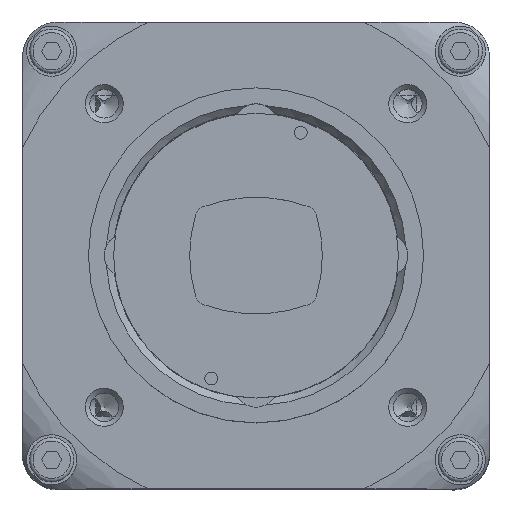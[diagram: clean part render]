
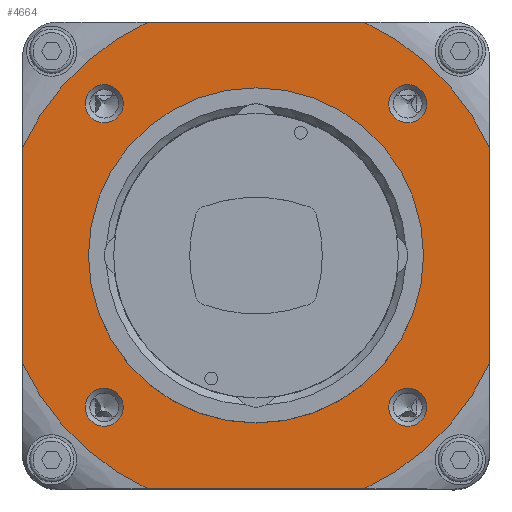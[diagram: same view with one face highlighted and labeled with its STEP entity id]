
A CAD part, top view. The second image highlights one B-rep face of the part: STEP entity #4664.
In plain terms, the highlighted planar face has unit normal (0, 0, 1).
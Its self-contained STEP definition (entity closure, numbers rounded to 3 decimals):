
#4664 = ADVANCED_FACE( '', ( #9794, #9795, #9796, #9797, #9798, #9799 ), #9800, .F. );
#9794 = FACE_BOUND( '', #16990, .T. );
#9795 = FACE_BOUND( '', #16991, .T. );
#9796 = FACE_BOUND( '', #16992, .T. );
#9797 = FACE_BOUND( '', #16993, .T. );
#9798 = FACE_BOUND( '', #16994, .T. );
#9799 = FACE_OUTER_BOUND( '', #16995, .T. );
#9800 = PLANE( '', #16996 );
#16990 = EDGE_LOOP( '', ( #28548 ) );
#16991 = EDGE_LOOP( '', ( #28549 ) );
#16992 = EDGE_LOOP( '', ( #28550 ) );
#16993 = EDGE_LOOP( '', ( #28551 ) );
#16994 = EDGE_LOOP( '', ( #28552 ) );
#16995 = EDGE_LOOP( '', ( #28553, #28554, #28555, #28556, #28557, #28558, #28559, #28560 ) );
#16996 = AXIS2_PLACEMENT_3D( '', #28561, #28562, #28563 );
#28548 = ORIENTED_EDGE( '', *, *, #31928, .T. );
#28549 = ORIENTED_EDGE( '', *, *, #32304, .T. );
#28550 = ORIENTED_EDGE( '', *, *, #29202, .T. );
#28551 = ORIENTED_EDGE( '', *, *, #29423, .T. );
#28552 = ORIENTED_EDGE( '', *, *, #29626, .T. );
#28553 = ORIENTED_EDGE( '', *, *, #32658, .F. );
#28554 = ORIENTED_EDGE( '', *, *, #31607, .T. );
#28555 = ORIENTED_EDGE( '', *, *, #32858, .F. );
#28556 = ORIENTED_EDGE( '', *, *, #32540, .T. );
#28557 = ORIENTED_EDGE( '', *, *, #31280, .F. );
#28558 = ORIENTED_EDGE( '', *, *, #31404, .T. );
#28559 = ORIENTED_EDGE( '', *, *, #30274, .F. );
#28560 = ORIENTED_EDGE( '', *, *, #32802, .T. );
#28561 = CARTESIAN_POINT( '', ( 0., 0., 12.3 ) );
#28562 = DIRECTION( '', ( 0., 0., -1. ) );
#28563 = DIRECTION( '', ( -1., 0., 0. ) );
#29202 = EDGE_CURVE( '', #33976, #33976, #33977, .T. );
#29423 = EDGE_CURVE( '', #34352, #34352, #34353, .T. );
#29626 = EDGE_CURVE( '', #34704, #34704, #34705, .T. );
#30274 = EDGE_CURVE( '', #35754, #35755, #35756, .T. );
#31280 = EDGE_CURVE( '', #37265, #37266, #37267, .T. );
#31404 = EDGE_CURVE( '', #37265, #35755, #37437, .T. );
#31607 = EDGE_CURVE( '', #37714, #37715, #37716, .T. );
#31928 = EDGE_CURVE( '', #38141, #38141, #38142, .T. );
#32304 = EDGE_CURVE( '', #38610, #38610, #38611, .T. );
#32540 = EDGE_CURVE( '', #38921, #37266, #38922, .T. );
#32658 = EDGE_CURVE( '', #37714, #39054, #39055, .T. );
#32802 = EDGE_CURVE( '', #35754, #39054, #39207, .T. );
#32858 = EDGE_CURVE( '', #38921, #37715, #39266, .T. );
#33976 = VERTEX_POINT( '', #41014 );
#33977 = CIRCLE( '', #41015, 1.63 );
#34352 = VERTEX_POINT( '', #41529 );
#34353 = CIRCLE( '', #41530, 1.63 );
#34704 = VERTEX_POINT( '', #42425 );
#34705 = CIRCLE( '', #42426, 14.35 );
#35754 = VERTEX_POINT( '', #44229 );
#35755 = VERTEX_POINT( '', #44230 );
#35756 = LINE( '', #44231, #44232 );
#37265 = VERTEX_POINT( '', #46672 );
#37266 = VERTEX_POINT( '', #46673 );
#37267 = LINE( '', #46674, #46675 );
#37437 = CIRCLE( '', #47013, 22.031 );
#37714 = VERTEX_POINT( '', #47393 );
#37715 = VERTEX_POINT( '', #47394 );
#37716 = CIRCLE( '', #47395, 22.031 );
#38141 = VERTEX_POINT( '', #48124 );
#38142 = CIRCLE( '', #48125, 1.63 );
#38610 = VERTEX_POINT( '', #48983 );
#38611 = CIRCLE( '', #48984, 1.63 );
#38921 = VERTEX_POINT( '', #49427 );
#38922 = CIRCLE( '', #49428, 22.031 );
#39054 = VERTEX_POINT( '', #49599 );
#39055 = LINE( '', #49600, #49601 );
#39207 = CIRCLE( '', #49941, 22.031 );
#39266 = LINE( '', #50010, #50011 );
#41014 = CARTESIAN_POINT( '', ( -14.63, 13., 12.3 ) );
#41015 = AXIS2_PLACEMENT_3D( '', #50914, #50915, #50916 );
#41529 = CARTESIAN_POINT( '', ( 11.371, 13., 12.3 ) );
#41530 = AXIS2_PLACEMENT_3D( '', #51236, #51237, #51238 );
#42425 = CARTESIAN_POINT( '', ( 14.35, 0., 12.3 ) );
#42426 = AXIS2_PLACEMENT_3D( '', #51474, #51475, #51476 );
#44229 = CARTESIAN_POINT( '', ( 20., 9.238, 12.3 ) );
#44230 = CARTESIAN_POINT( '', ( 20., -9.238, 12.3 ) );
#44231 = CARTESIAN_POINT( '', ( 20., 20., 12.3 ) );
#44232 = VECTOR( '', #52308, 1000. );
#46672 = CARTESIAN_POINT( '', ( 9.238, -20., 12.3 ) );
#46673 = CARTESIAN_POINT( '', ( -9.238, -20., 12.3 ) );
#46674 = CARTESIAN_POINT( '', ( 20., -20., 12.3 ) );
#46675 = VECTOR( '', #53573, 1000. );
#47013 = AXIS2_PLACEMENT_3D( '', #53702, #53703, #53704 );
#47393 = CARTESIAN_POINT( '', ( -9.238, 20., 12.3 ) );
#47394 = CARTESIAN_POINT( '', ( -20., 9.238, 12.3 ) );
#47395 = AXIS2_PLACEMENT_3D( '', #53968, #53969, #53970 );
#48124 = CARTESIAN_POINT( '', ( 11.371, -13., 12.3 ) );
#48125 = AXIS2_PLACEMENT_3D( '', #54316, #54317, #54318 );
#48983 = CARTESIAN_POINT( '', ( -14.63, -13., 12.3 ) );
#48984 = AXIS2_PLACEMENT_3D( '', #54707, #54708, #54709 );
#49427 = CARTESIAN_POINT( '', ( -20., -9.238, 12.3 ) );
#49428 = AXIS2_PLACEMENT_3D( '', #54969, #54970, #54971 );
#49599 = CARTESIAN_POINT( '', ( 9.238, 20., 12.3 ) );
#49600 = CARTESIAN_POINT( '', ( -20., 20., 12.3 ) );
#49601 = VECTOR( '', #55060, 1000. );
#49941 = AXIS2_PLACEMENT_3D( '', #55124, #55125, #55126 );
#50010 = CARTESIAN_POINT( '', ( -20., -20., 12.3 ) );
#50011 = VECTOR( '', #55153, 1000. );
#50914 = CARTESIAN_POINT( '', ( -13., 13., 12.3 ) );
#50915 = DIRECTION( '', ( 0., 0., -1. ) );
#50916 = DIRECTION( '', ( -1., 0., 0. ) );
#51236 = CARTESIAN_POINT( '', ( 13., 13., 12.3 ) );
#51237 = DIRECTION( '', ( 0., 0., -1. ) );
#51238 = DIRECTION( '', ( -1., 0., 0. ) );
#51474 = CARTESIAN_POINT( '', ( 0., 0., 12.3 ) );
#51475 = DIRECTION( '', ( 0., 0., -1. ) );
#51476 = DIRECTION( '', ( 1., 0., 0. ) );
#52308 = DIRECTION( '', ( 0., -1., 0. ) );
#53573 = DIRECTION( '', ( -1., 0., 0. ) );
#53702 = CARTESIAN_POINT( '', ( 0., 0., 12.3 ) );
#53703 = DIRECTION( '', ( 0., 0., 1. ) );
#53704 = DIRECTION( '', ( 1., 0., 0. ) );
#53968 = CARTESIAN_POINT( '', ( 0., 0., 12.3 ) );
#53969 = DIRECTION( '', ( 0., 0., 1. ) );
#53970 = DIRECTION( '', ( 1., 0., 0. ) );
#54316 = CARTESIAN_POINT( '', ( 13., -13., 12.3 ) );
#54317 = DIRECTION( '', ( 0., 0., -1. ) );
#54318 = DIRECTION( '', ( -1., 0., 0. ) );
#54707 = CARTESIAN_POINT( '', ( -13., -13., 12.3 ) );
#54708 = DIRECTION( '', ( 0., 0., -1. ) );
#54709 = DIRECTION( '', ( -1., 0., 0. ) );
#54969 = CARTESIAN_POINT( '', ( 0., 0., 12.3 ) );
#54970 = DIRECTION( '', ( 0., 0., 1. ) );
#54971 = DIRECTION( '', ( 1., 0., 0. ) );
#55060 = DIRECTION( '', ( 1., 0., 0. ) );
#55124 = CARTESIAN_POINT( '', ( 0., 0., 12.3 ) );
#55125 = DIRECTION( '', ( 0., 0., 1. ) );
#55126 = DIRECTION( '', ( 1., 0., 0. ) );
#55153 = DIRECTION( '', ( 0., 1., 0. ) );
